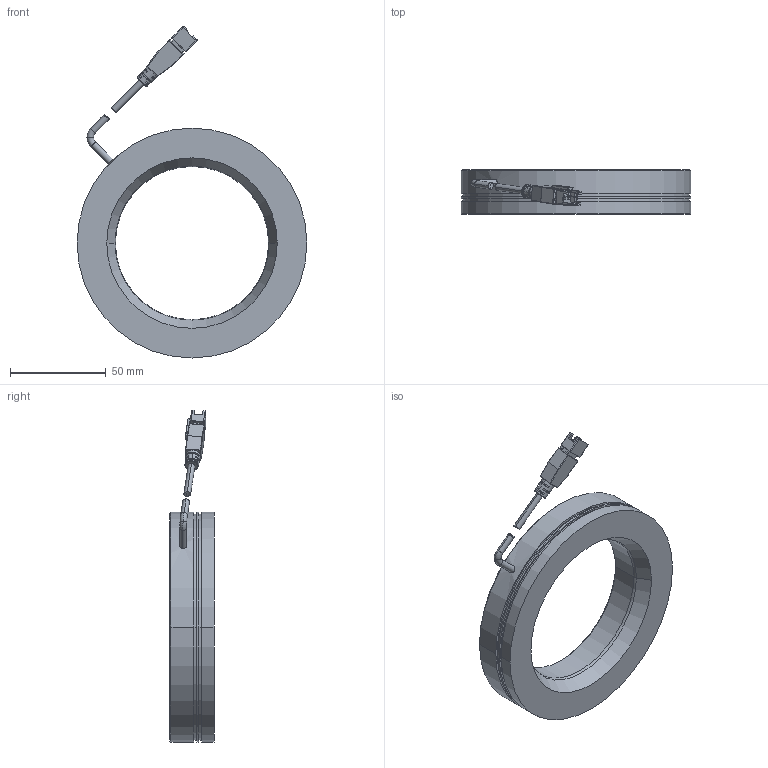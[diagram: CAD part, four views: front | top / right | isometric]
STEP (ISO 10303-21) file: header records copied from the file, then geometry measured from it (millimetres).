
FILE_DESCRIPTION((''),'2;1');
FILE_NAME('MV-LRDS-120-30_ASM','2019-09-19T',('rs-zhongwm'),(''),'PRO/ENGINEER BY PARAMETRIC TECHNOLOGY CORPORATION, 2010100','PRO/ENGINEER BY PARAMETRIC TECHNOLOGY CORPORATION, 2010100','');
FILE_SCHEMA(('CONFIG_CONTROL_DESIGN'));
Length unit declared in the file: millimetre
Products named in the file (5): WAIKE_2; LINE_TOU_74; BODY_12_5; ASSY_ASM_20_ASM; MV-LRDS-120-30_ASM
Assembly tree (4 placements, depth 3):
  MV-LRDS-120-30_ASM
    WAIKE_2
    ASSY_ASM_20_ASM
      LINE_TOU_74
      BODY_12_5
Bounding box: 120 x 23 x 173.34 mm (x, y, z)
Volume: 140997.3 mm3; surface area: 30264.8 mm2
Topology: 3 solids, 7 shells, 279 faces, 704 edges, 437 vertices
Faces by surface type: plane 138, cylinder 95, cone 16, torus 14, bspline 8, sphere 8
Entity records: 8645 total; most frequent: CARTESIAN_POINT 1832, DIRECTION 1440, ORIENTED_EDGE 1360, EDGE_CURVE 688, AXIS2_PLACEMENT_3D 516, VERTEX_POINT 437, VECTOR 408, LINE 408
